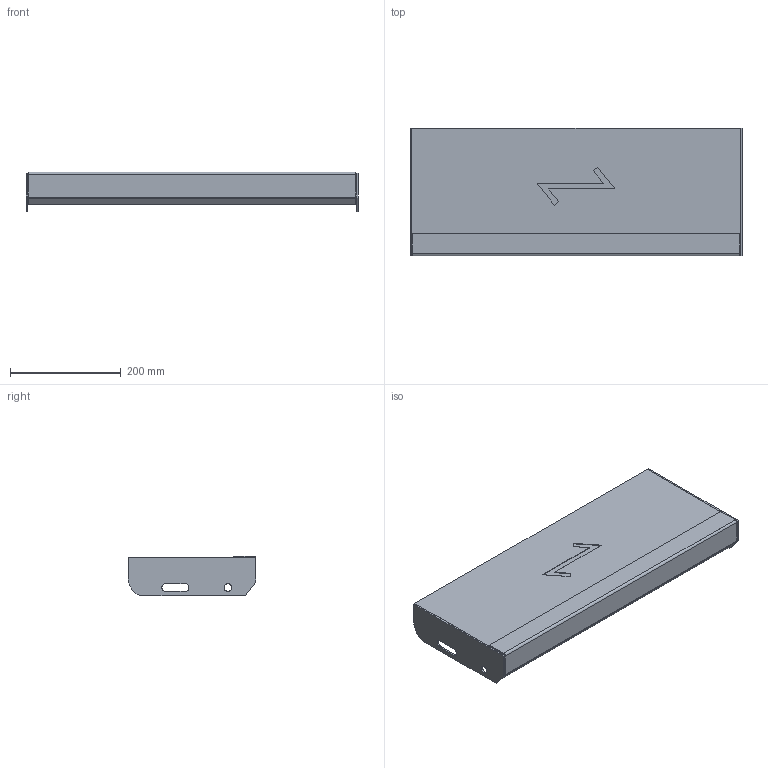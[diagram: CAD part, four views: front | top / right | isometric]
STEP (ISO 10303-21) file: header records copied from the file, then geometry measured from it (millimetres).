
FILE_DESCRIPTION (( 'STEP AP203' ), '1' );
FILE_NAME ('StegTH6-S-nya_steget-600x230.STEP', '2020-03-04T07:41:37', ( '' ), ( '' ), 'SwSTEP 2.0', 'SolidWorks 2019', '' );
FILE_SCHEMA (( 'CONFIG_CONTROL_DESIGN' ));
Length unit declared in the file: millimetre
Products named in the file (5): StegTH6-S-nya_steget-600x230; SW0000039419; SW0000038701; SW0000039239; SW0000038932
Assembly tree (5 placements, depth 3):
  StegTH6-S-nya_steget-600x230
    SW0000039419
      SW0000038932
      SW0000039239
      SW0000038701  x2
Bounding box: 600 x 230 x 72 mm (x, y, z)
Volume: 2686397.4 mm3; surface area: 463705.8 mm2
Topology: 4 solids, 4 shells, 67 faces, 158 edges, 100 vertices
Faces by surface type: plane 51, cylinder 16
Entity records: 2002 total; most frequent: DIRECTION 261, CARTESIAN_POINT 254, ORIENTED_EDGE 238, EDGE_CURVE 119, LINE 99, VECTOR 99, AXIS2_PLACEMENT_3D 81, VERTEX_POINT 74
